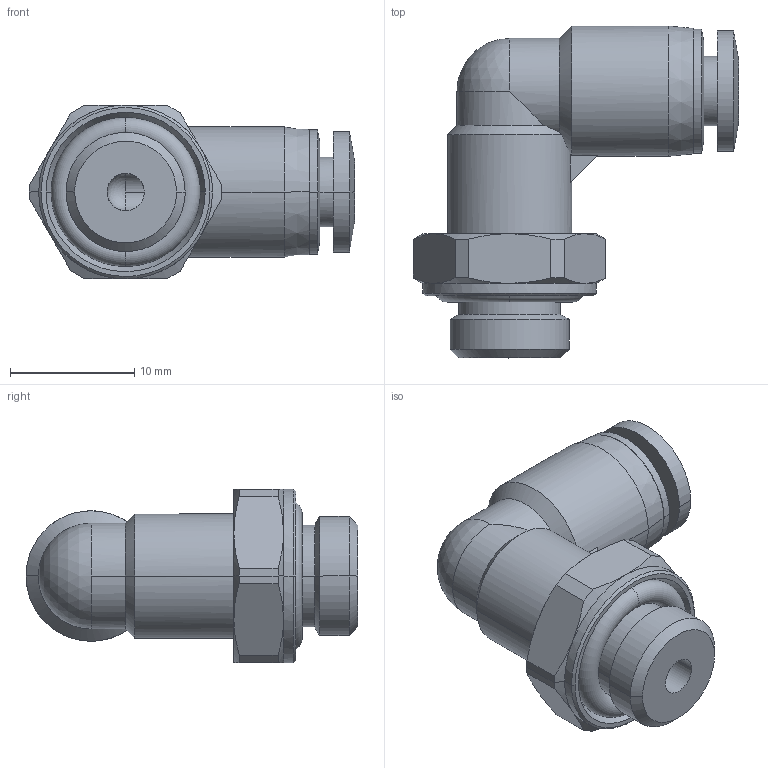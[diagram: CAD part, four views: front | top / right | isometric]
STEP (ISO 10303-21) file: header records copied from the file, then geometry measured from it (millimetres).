
FILE_DESCRIPTION (( 'STEP AP203' ), '1' );
FILE_NAME ('FL04-01.STEP', '2020-05-06T15:00:58', ( '' ), ( '' ), 'SwSTEP 2.0', 'SolidWorks 2019', '' );
FILE_SCHEMA (( 'CONFIG_CONTROL_DESIGN' ));
Length unit declared in the file: millimetre
Products named in the file (1): FL04-01
Bounding box: 26.2 x 26.75 x 14 mm (x, y, z)
Surface area: 2369.9 mm2 (no closed solid volume)
Topology: 0 solids, 4 shells, 93 faces, 223 edges, 138 vertices
Faces by surface type: cylinder 34, cone 32, plane 19, torus 4, bspline 2, sphere 2
Entity records: 4315 total; most frequent: CARTESIAN_POINT 2466, ORIENTED_EDGE 424, DIRECTION 236, EDGE_CURVE 220, B_SPLINE_CURVE_WITH_KNOTS 170, VERTEX_POINT 137, EDGE_LOOP 103, AXIS2_PLACEMENT_3D 96
